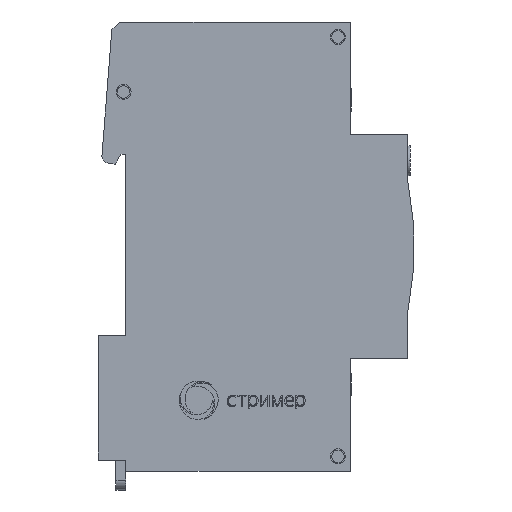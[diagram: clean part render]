
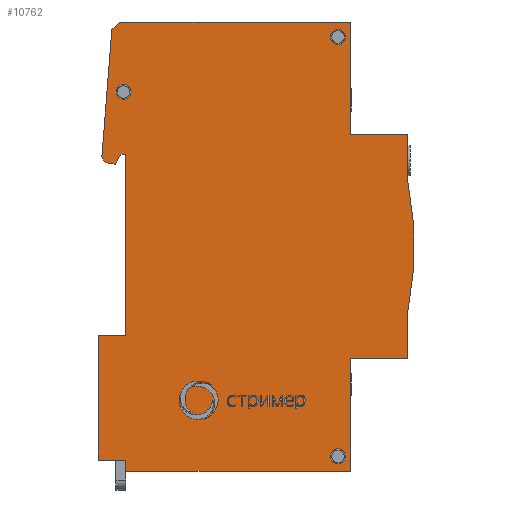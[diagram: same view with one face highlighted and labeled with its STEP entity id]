
A CAD part, front view. The second image highlights one B-rep face of the part: STEP entity #10762.
In plain terms, the highlighted planar face has unit normal (0, -1, 0).
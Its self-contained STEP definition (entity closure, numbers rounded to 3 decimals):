
#9196=CARTESIAN_POINT('',(-14.5,-13.5,-42.75));
#9197=VERTEX_POINT('',#9196);
#9204=CARTESIAN_POINT('',(-20.,-13.5,-42.75));
#9205=VERTEX_POINT('',#9204);
#9206=CARTESIAN_POINT('',(-20.,-13.5,-42.75));
#9207=DIRECTION('',(1.,0.,-0.));
#9208=VECTOR('',#9207,5.5);
#9209=LINE('',#9206,#9208);
#9210=EDGE_CURVE('',#9205,#9197,#9209,.T.);
#9414=CARTESIAN_POINT('',(-14.5,-13.5,-45.));
#9415=VERTEX_POINT('',#9414);
#9416=CARTESIAN_POINT('',(30.5,-13.5,-45.));
#9417=VERTEX_POINT('',#9416);
#9418=CARTESIAN_POINT('',(-14.5,-13.5,-45.));
#9419=DIRECTION('',(1.,0.,-0.));
#9420=VECTOR('',#9419,45.);
#9421=LINE('',#9418,#9420);
#9422=EDGE_CURVE('',#9415,#9417,#9421,.T.);
#9541=CARTESIAN_POINT('',(-14.5,-13.5,-17.75));
#9542=VERTEX_POINT('',#9541);
#9549=CARTESIAN_POINT('',(-14.5,-13.5,18.5));
#9550=VERTEX_POINT('',#9549);
#9551=CARTESIAN_POINT('',(-14.5,-13.5,18.5));
#9552=DIRECTION('',(0.,0.,-1.));
#9553=VECTOR('',#9552,36.25);
#9554=LINE('',#9551,#9553);
#9555=EDGE_CURVE('',#9550,#9542,#9554,.T.);
#9572=CARTESIAN_POINT('',(-14.5,-13.5,-42.75));
#9573=DIRECTION('',(0.,0.,-1.));
#9574=VECTOR('',#9573,2.25);
#9575=LINE('',#9572,#9574);
#9576=EDGE_CURVE('',#9197,#9415,#9575,.T.);
#9597=CARTESIAN_POINT('',(-17.29,-13.5,43.498));
#9598=VERTEX_POINT('',#9597);
#9605=CARTESIAN_POINT('',(-15.5,-13.5,45.));
#9606=VERTEX_POINT('',#9605);
#9607=CARTESIAN_POINT('',(-15.5,-13.5,45.));
#9608=DIRECTION('',(-0.766,0.,-0.643));
#9609=VECTOR('',#9608,2.337);
#9610=LINE('',#9607,#9609);
#9611=EDGE_CURVE('',#9606,#9598,#9610,.T.);
#9635=CARTESIAN_POINT('',(-19.273,-13.5,18.306));
#9636=VERTEX_POINT('',#9635);
#9643=CARTESIAN_POINT('',(-17.29,-13.5,43.498));
#9644=DIRECTION('',(-0.078,0.,-0.997));
#9645=VECTOR('',#9644,25.27);
#9646=LINE('',#9643,#9645);
#9647=EDGE_CURVE('',#9598,#9636,#9646,.T.);
#9667=CARTESIAN_POINT('',(-17.999,-13.5,16.704));
#9668=VERTEX_POINT('',#9667);
#9675=CARTESIAN_POINT('',(-17.777,-13.5,18.188));
#9676=DIRECTION('',(0.,-1.,0.));
#9677=DIRECTION('',(0.,0.,1.));
#9678=AXIS2_PLACEMENT_3D('',#9675,#9676,#9677);
#9679=CIRCLE('',#9678,1.5);
#9680=EDGE_CURVE('',#9636,#9668,#9679,.T.);
#9699=CARTESIAN_POINT('',(-16.632,-13.5,16.5));
#9700=VERTEX_POINT('',#9699);
#9707=CARTESIAN_POINT('',(-17.999,-13.5,16.704));
#9708=DIRECTION('',(0.989,0.,-0.148));
#9709=VECTOR('',#9708,1.383);
#9710=LINE('',#9707,#9709);
#9711=EDGE_CURVE('',#9668,#9700,#9710,.T.);
#9730=CARTESIAN_POINT('',(-15.5,-13.5,18.5));
#9731=VERTEX_POINT('',#9730);
#9738=CARTESIAN_POINT('',(-16.632,-13.5,16.5));
#9739=DIRECTION('',(0.492,0.,0.87));
#9740=VECTOR('',#9739,2.298);
#9741=LINE('',#9738,#9740);
#9742=EDGE_CURVE('',#9700,#9731,#9741,.T.);
#9920=CARTESIAN_POINT('',(-15.5,-13.5,18.5));
#9921=DIRECTION('',(1.,0.,0.));
#9922=VECTOR('',#9921,1.);
#9923=LINE('',#9920,#9922);
#9924=EDGE_CURVE('',#9731,#9550,#9923,.T.);
#10024=CARTESIAN_POINT('',(30.5,-13.5,-22.5));
#10025=VERTEX_POINT('',#10024);
#10026=CARTESIAN_POINT('',(30.5,-13.5,-45.));
#10027=DIRECTION('',(0.,0.,1.));
#10028=VECTOR('',#10027,22.5);
#10029=LINE('',#10026,#10028);
#10030=EDGE_CURVE('',#9417,#10025,#10029,.T.);
#10055=CARTESIAN_POINT('',(42.,-13.5,-22.5));
#10056=VERTEX_POINT('',#10055);
#10057=CARTESIAN_POINT('',(30.5,-13.5,-22.5));
#10058=DIRECTION('',(1.,0.,-0.));
#10059=VECTOR('',#10058,11.5);
#10060=LINE('',#10057,#10059);
#10061=EDGE_CURVE('',#10025,#10056,#10060,.T.);
#10086=CARTESIAN_POINT('',(42.,-13.5,-13.));
#10087=VERTEX_POINT('',#10086);
#10088=CARTESIAN_POINT('',(42.,-13.5,-22.5));
#10089=DIRECTION('',(0.,0.,1.));
#10090=VECTOR('',#10089,9.5);
#10091=LINE('',#10088,#10090);
#10092=EDGE_CURVE('',#10056,#10087,#10091,.T.);
#10117=CARTESIAN_POINT('',(42.,-13.5,13.));
#10118=VERTEX_POINT('',#10117);
#10119=CARTESIAN_POINT('',(-21.707,-13.5,0.));
#10120=DIRECTION('',(0.,-1.,0.));
#10121=DIRECTION('',(0.,0.,1.));
#10122=AXIS2_PLACEMENT_3D('',#10119,#10120,#10121);
#10123=CIRCLE('',#10122,65.02);
#10124=EDGE_CURVE('',#10087,#10118,#10123,.T.);
#10150=CARTESIAN_POINT('',(42.,-13.5,22.5));
#10151=VERTEX_POINT('',#10150);
#10152=CARTESIAN_POINT('',(42.,-13.5,13.));
#10153=DIRECTION('',(-0.,0.,1.));
#10154=VECTOR('',#10153,9.5);
#10155=LINE('',#10152,#10154);
#10156=EDGE_CURVE('',#10118,#10151,#10155,.T.);
#10181=CARTESIAN_POINT('',(30.5,-13.5,22.5));
#10182=VERTEX_POINT('',#10181);
#10183=CARTESIAN_POINT('',(42.,-13.5,22.5));
#10184=DIRECTION('',(-1.,0.,0.));
#10185=VECTOR('',#10184,11.5);
#10186=LINE('',#10183,#10185);
#10187=EDGE_CURVE('',#10151,#10182,#10186,.T.);
#10272=CARTESIAN_POINT('',(30.5,-13.5,45.));
#10273=VERTEX_POINT('',#10272);
#10274=CARTESIAN_POINT('',(30.5,-13.5,22.5));
#10275=DIRECTION('',(0.,0.,1.));
#10276=VECTOR('',#10275,22.5);
#10277=LINE('',#10274,#10276);
#10278=EDGE_CURVE('',#10182,#10273,#10277,.T.);
#10339=CARTESIAN_POINT('',(-14.94,-13.5,29.5));
#10340=VERTEX_POINT('',#10339);
#10347=CARTESIAN_POINT('',(-16.44,-13.5,31.));
#10348=VERTEX_POINT('',#10347);
#10349=CARTESIAN_POINT('',(-14.94,-13.5,31.));
#10350=DIRECTION('',(0.,-1.,0.));
#10351=DIRECTION('',(-1.,0.,0.));
#10352=AXIS2_PLACEMENT_3D('',#10349,#10350,#10351);
#10353=CIRCLE('',#10352,1.5);
#10354=EDGE_CURVE('',#10340,#10348,#10353,.T.);
#10413=CARTESIAN_POINT('',(28.,-13.5,40.5));
#10414=VERTEX_POINT('',#10413);
#10423=CARTESIAN_POINT('',(26.5,-13.5,42.));
#10424=VERTEX_POINT('',#10423);
#10425=CARTESIAN_POINT('',(28.,-13.5,42.));
#10426=DIRECTION('',(0.,-1.,0.));
#10427=DIRECTION('',(-1.,0.,0.));
#10428=AXIS2_PLACEMENT_3D('',#10425,#10426,#10427);
#10429=CIRCLE('',#10428,1.5);
#10430=EDGE_CURVE('',#10414,#10424,#10429,.T.);
#10455=CARTESIAN_POINT('',(28.,-13.5,-43.5));
#10456=VERTEX_POINT('',#10455);
#10465=CARTESIAN_POINT('',(26.5,-13.5,-42.));
#10466=VERTEX_POINT('',#10465);
#10467=CARTESIAN_POINT('',(28.,-13.5,-42.));
#10468=DIRECTION('',(0.,-1.,0.));
#10469=DIRECTION('',(-1.,0.,0.));
#10470=AXIS2_PLACEMENT_3D('',#10467,#10468,#10469);
#10471=CIRCLE('',#10470,1.5);
#10472=EDGE_CURVE('',#10456,#10466,#10471,.T.);
#10608=CARTESIAN_POINT('',(30.5,-13.5,45.));
#10609=DIRECTION('',(-1.,0.,0.));
#10610=VECTOR('',#10609,46.);
#10611=LINE('',#10608,#10610);
#10612=EDGE_CURVE('',#10273,#9606,#10611,.T.);
#10693=CARTESIAN_POINT('',(0.,-13.5,0.));
#10694=DIRECTION('',(0.,-1.,0.));
#10695=DIRECTION('',(0.,0.,1.));
#10696=AXIS2_PLACEMENT_3D('',#10693,#10694,#10695);
#10697=PLANE('',#10696);
#10698=ORIENTED_EDGE('',*,*,#9924,.T.);
#10699=ORIENTED_EDGE('',*,*,#9555,.T.);
#10700=CARTESIAN_POINT('',(-20.,-13.5,-17.75));
#10701=VERTEX_POINT('',#10700);
#10702=CARTESIAN_POINT('',(-20.,-13.5,-17.75));
#10703=DIRECTION('',(1.,0.,-0.));
#10704=VECTOR('',#10703,5.5);
#10705=LINE('',#10702,#10704);
#10706=EDGE_CURVE('',#10701,#9542,#10705,.T.);
#10707=ORIENTED_EDGE('',*,*,#10706,.F.);
#10708=CARTESIAN_POINT('',(-20.,-13.5,-17.75));
#10709=DIRECTION('',(0.,-0.,-1.));
#10710=VECTOR('',#10709,25.);
#10711=LINE('',#10708,#10710);
#10712=EDGE_CURVE('',#10701,#9205,#10711,.T.);
#10713=ORIENTED_EDGE('',*,*,#10712,.T.);
#10714=ORIENTED_EDGE('',*,*,#9210,.T.);
#10715=ORIENTED_EDGE('',*,*,#9576,.T.);
#10716=ORIENTED_EDGE('',*,*,#9422,.T.);
#10717=ORIENTED_EDGE('',*,*,#10030,.T.);
#10718=ORIENTED_EDGE('',*,*,#10061,.T.);
#10719=ORIENTED_EDGE('',*,*,#10092,.T.);
#10720=ORIENTED_EDGE('',*,*,#10124,.T.);
#10721=ORIENTED_EDGE('',*,*,#10156,.T.);
#10722=ORIENTED_EDGE('',*,*,#10187,.T.);
#10723=ORIENTED_EDGE('',*,*,#10278,.T.);
#10724=ORIENTED_EDGE('',*,*,#10612,.T.);
#10725=ORIENTED_EDGE('',*,*,#9611,.T.);
#10726=ORIENTED_EDGE('',*,*,#9647,.T.);
#10727=ORIENTED_EDGE('',*,*,#9680,.T.);
#10728=ORIENTED_EDGE('',*,*,#9711,.T.);
#10729=ORIENTED_EDGE('',*,*,#9742,.T.);
#10730=EDGE_LOOP('',(#10698,#10699,#10707,#10713,#10714,#10715,#10716,#10717,#10718,#10719,#10720,#10721,#10722,#10723,#10724,#10725,#10726,#10727,#10728,#10729));
#10731=FACE_BOUND('',#10730,.T.);
#10732=ORIENTED_EDGE('',*,*,#10472,.F.);
#10733=CARTESIAN_POINT('',(28.,-13.5,-42.));
#10734=DIRECTION('',(0.,-1.,0.));
#10735=DIRECTION('',(-1.,0.,0.));
#10736=AXIS2_PLACEMENT_3D('',#10733,#10734,#10735);
#10737=CIRCLE('',#10736,1.5);
#10738=EDGE_CURVE('',#10466,#10456,#10737,.T.);
#10739=ORIENTED_EDGE('',*,*,#10738,.F.);
#10740=EDGE_LOOP('',(#10732,#10739));
#10741=FACE_BOUND('',#10740,.T.);
#10742=ORIENTED_EDGE('',*,*,#10430,.F.);
#10743=CARTESIAN_POINT('',(28.,-13.5,42.));
#10744=DIRECTION('',(0.,-1.,0.));
#10745=DIRECTION('',(-1.,0.,0.));
#10746=AXIS2_PLACEMENT_3D('',#10743,#10744,#10745);
#10747=CIRCLE('',#10746,1.5);
#10748=EDGE_CURVE('',#10424,#10414,#10747,.T.);
#10749=ORIENTED_EDGE('',*,*,#10748,.F.);
#10750=EDGE_LOOP('',(#10742,#10749));
#10751=FACE_BOUND('',#10750,.T.);
#10752=ORIENTED_EDGE('',*,*,#10354,.F.);
#10753=CARTESIAN_POINT('',(-14.94,-13.5,31.));
#10754=DIRECTION('',(0.,-1.,0.));
#10755=DIRECTION('',(-1.,0.,0.));
#10756=AXIS2_PLACEMENT_3D('',#10753,#10754,#10755);
#10757=CIRCLE('',#10756,1.5);
#10758=EDGE_CURVE('',#10348,#10340,#10757,.T.);
#10759=ORIENTED_EDGE('',*,*,#10758,.F.);
#10760=EDGE_LOOP('',(#10752,#10759));
#10761=FACE_BOUND('',#10760,.T.);
#10762=ADVANCED_FACE('',(#10731,#10741,#10751,#10761),#10697,.T.);
